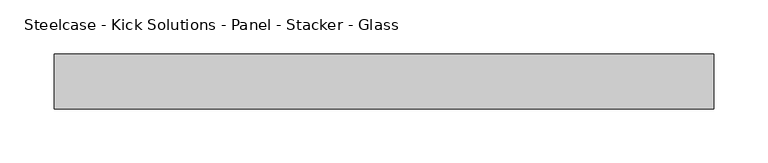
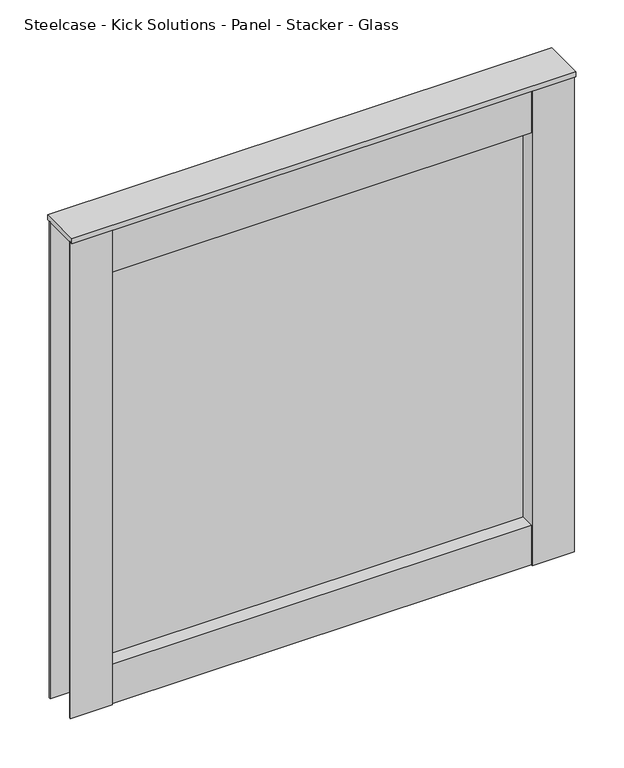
"""IFC4 building model written with IfcOpenShell, lengths in millimetres: furniture geometry, Steelcase - Kick Solutions - Panel - Stacker - Glass : 24H x 24W."""

import ifcopenshell
import ifcopenshell.guid

model = None  # the IFC model being written
_history = None  # IfcOwnerHistory: only IFC2X3 demands one
_inside = {}  # id of a spatial element -> (the spatial element, [elements in it])
_under = {}  # id of a project, library or spatial element -> (it, [spatial elements below it])
_declared = {}  # id of a project -> (the project, [libraries it declares])
_typed = {}  # id of a type object -> (the type object, [elements of that type])
_made_of = {}  # id of a material, layer set ... -> (it, [elements and type objects made of it])


def new_model(schema):
    """Start an empty IFC model of exactly this schema.

    Asked for "IFC4X3", IfcOpenShell would pick the latest addendum, in which some entities
    have other attributes; the version numbers below select the first issue.
    IFC2X3 requires an IfcOwnerHistory on every rooted entity: one is made here for all.
    """
    global model, _history
    if schema == "IFC4X3":
        model = ifcopenshell.file(schema_version=(4, 3, 0, 0))
    else:
        model = ifcopenshell.file(schema=schema)
    _inside.clear()
    _under.clear()
    _declared.clear()
    _typed.clear()
    _made_of.clear()
    _history = None
    if model.schema == "IFC2X3":
        org = make("IfcOrganization", Name="unknown")
        user = make(
            "IfcPersonAndOrganization",
            ThePerson=make("IfcPerson", FamilyName="unknown"),
            TheOrganization=org,
        )
        app = make(
            "IfcApplication",
            ApplicationDeveloper=org,
            Version="unknown",
            ApplicationFullName="unknown",
            ApplicationIdentifier="unknown",
        )
        _history = make(
            "IfcOwnerHistory",
            OwningUser=user,
            OwningApplication=app,
            ChangeAction="ADDED",
            CreationDate=0,
        )
    return model


def make(cls, **values):
    """One entity of the class cls with the attributes given. An attribute that is None is left unset."""
    return model.create_entity(
        cls, **{name: value for name, value in values.items() if value is not None}
    )


def rooted(cls, **values):
    """An entity with a GlobalId (a new one), such as an element, a storey or a relation."""
    return make(cls, GlobalId=ifcopenshell.guid.new(), OwnerHistory=_history, **values)


def si_unit(unit_type, name, prefix=None):
    """IfcSIUnit, for example si_unit("LENGTHUNIT", "METRE", prefix="MILLI")."""
    return make("IfcSIUnit", UnitType=unit_type, Prefix=prefix, Name=name)


def assignment(units):
    """IfcUnitAssignment: the units of a project."""
    return None if units is None else make("IfcUnitAssignment", Units=units)


def point(xyz):
    """IfcCartesianPoint."""
    return None if xyz is None else make("IfcCartesianPoint", Coordinates=xyz)


def direction(xyz):
    """IfcDirection."""
    return None if xyz is None else make("IfcDirection", DirectionRatios=xyz)


def frame(location, z_axis=None, x_axis=None):
    """IfcAxis2Placement3D, a coordinate frame: its origin and axes. An axis left out is left unset."""
    return make(
        "IfcAxis2Placement3D",
        Location=point(location),
        Axis=direction(z_axis),
        RefDirection=direction(x_axis),
    )


def origin():
    """The frame at (0, 0, 0) with its axes left unset."""
    return frame((0.0, 0.0, 0.0))


def place(relative_to, where):
    """IfcLocalPlacement: puts the frame where relative to a parent placement (None: the world)."""
    return make(
        "IfcLocalPlacement", PlacementRelTo=relative_to, RelativePlacement=where
    )


def context(
    kind, dimensions, precision=None, world=None, true_north=None, identifier=None
):
    """IfcGeometricRepresentationContext, for example the 3D "Model" context."""
    return make(
        "IfcGeometricRepresentationContext",
        ContextIdentifier=identifier,
        ContextType=kind,
        CoordinateSpaceDimension=dimensions,
        Precision=precision,
        WorldCoordinateSystem=world,
        TrueNorth=true_north,
    )


def project(units=None, contexts=None):
    """IfcProject with its units and contexts."""
    return rooted(
        "IfcProject",
        Name="project",
        RepresentationContexts=contexts,
        UnitsInContext=assignment(units),
    )


def spatial(cls, under=None, at=None, **own):
    """A site, building, storey or space (cls), placed at a placement, below another one or the project."""
    s = rooted(cls, ObjectPlacement=at, **own)
    if under is not None:
        _under.setdefault(under.id(), (under, []))[1].append(s)
    return s


def polyline(points):
    """IfcPolyline through the points."""
    return make("IfcPolyline", Points=[point(p) for p in points])


def outline(outer, holes=None, kind="AREA"):
    """IfcArbitraryClosedProfileDef: a profile drawn as a closed curve; with holes, ...WithVoids."""
    if holes is None:
        return make("IfcArbitraryClosedProfileDef", ProfileType=kind, OuterCurve=outer)
    return make(
        "IfcArbitraryProfileDefWithVoids",
        ProfileType=kind,
        OuterCurve=outer,
        InnerCurves=holes,
    )


def extrude(swept, where, along, depth):
    """IfcExtrudedAreaSolid: the profile swept, set in the frame where, extruded along a direction by depth."""
    return make(
        "IfcExtrudedAreaSolid",
        SweptArea=swept,
        Position=where,
        ExtrudedDirection=direction(along),
        Depth=depth,
    )


def shape(context_of_items, identifier, shape_type, items):
    """IfcShapeRepresentation: the items that make up one representation, for example the "Body"."""
    return make(
        "IfcShapeRepresentation",
        ContextOfItems=context_of_items,
        RepresentationIdentifier=identifier,
        RepresentationType=shape_type,
        Items=items,
    )


def source(mapping_origin, context_of_items, identifier, shape_type, items):
    """IfcRepresentationMap: a shape defined once, which mapped items show again and again."""
    return make(
        "IfcRepresentationMap",
        MappingOrigin=mapping_origin,
        MappedRepresentation=shape(context_of_items, identifier, shape_type, items),
    )


def transform(
    local_origin,
    x_axis=None,
    y_axis=None,
    z_axis=None,
    scale=None,
    scale2=None,
    scale3=None,
    uniform=True,
):
    """IfcCartesianTransformationOperator3D, or its non-uniform kind. x_axis, y_axis, z_axis: its Axis1, 2, 3."""
    if uniform:
        return make(
            "IfcCartesianTransformationOperator3D",
            Axis1=direction(x_axis),
            Axis2=direction(y_axis),
            LocalOrigin=point(local_origin),
            Scale=scale,
            Axis3=direction(z_axis),
        )
    return make(
        "IfcCartesianTransformationOperator3DnonUniform",
        Axis1=direction(x_axis),
        Axis2=direction(y_axis),
        LocalOrigin=point(local_origin),
        Scale=scale,
        Axis3=direction(z_axis),
        Scale2=scale2,
        Scale3=scale3,
    )


def mapped(mapping_source, mapping_target):
    """IfcMappedItem: shows the shape of a source again, moved by a transform."""
    return make(
        "IfcMappedItem", MappingSource=mapping_source, MappingTarget=mapping_target
    )


def made_of(thing, what):
    """Note that an element or type object is made of a material, layer set ...; save() writes the relation."""
    if what is not None:
        _made_of.setdefault(what.id(), (what, []))[1].append(thing)
    return thing


def element(
    cls,
    number,
    at=None,
    inside=None,
    cuts=None,
    type_object=None,
    material=None,
    context=None,
    identifier="Body",
    shape_type=None,
    held_by="IfcProductDefinitionShape",
    body=None,
    shapes=None,
    **own,
):
    """One element of the class cls, such as IfcWall. Its Tag is "e" and its number.

    at: its placement. inside: the storey or other place that contains it. cuts: it is an
    opening in that element (IfcRelVoidsElement). A single representation is given by context,
    identifier, shape_type and body (its items); several are given by shapes. held_by: the class
    of the entity that holds the representations. save() writes the other relations.
    """
    e = rooted(cls, Tag="e%d" % number, ObjectPlacement=at, **own)
    if body is not None:
        shapes = [shape(context, identifier, shape_type, body)]
    if shapes is not None:
        e.Representation = make(held_by, Representations=shapes)
    if inside is not None:
        _inside.setdefault(inside.id(), (inside, []))[1].append(e)
    if cuts is not None:
        rooted(
            "IfcRelVoidsElement", RelatingBuildingElement=cuts, RelatedOpeningElement=e
        )
    if type_object is not None:
        _typed.setdefault(type_object.id(), (type_object, []))[1].append(e)
    return made_of(e, material)


def aggregate(whole, parts):
    """IfcRelAggregates: a whole, such as a stair, and the parts it consists of."""
    return rooted("IfcRelAggregates", RelatingObject=whole, RelatedObjects=parts)


def save(model, path):
    """Write the relations noted so far, then the file.

    IfcRelAggregates (storeys below a building ...), IfcRelContainedInSpatialStructure (elements
    in a storey), IfcRelDefinesByType, IfcRelAssociatesMaterial and IfcRelDeclares: one each for
    every whole, place, type object, material and project.
    """
    for whole, parts in _under.values():
        aggregate(whole, parts)
    for where, things in _inside.values():
        rooted(
            "IfcRelContainedInSpatialStructure",
            RelatedElements=things,
            RelatingStructure=where,
        )
    for kind, things in _typed.values():
        rooted("IfcRelDefinesByType", RelatedObjects=things, RelatingType=kind)
    for what, things in _made_of.values():
        rooted("IfcRelAssociatesMaterial", RelatedObjects=things, RelatingMaterial=what)
    for by, libraries in _declared.values():
        rooted("IfcRelDeclares", RelatingContext=by, RelatedDefinitions=libraries)
    model.write(path)


def steelcase_kick_solutions_panel_stacker_glass_a54ba889(model_context):
    return source(origin(), model_context, "Body", "SweptSolid", [
        extrude(outline(polyline([(558.8006661, -5.08), (558.8006661, -45.7200015), (50.8006646, -45.7200015), (50.8006646, -5.08), (558.8006661, -5.08)])), frame((0.0, 0.0, 1066.8), z_axis=(0.0, 0.0, 1.0), x_axis=(1.0, 0.0, 0.0)), (0.0, 0.0, 1.0), 50.6830951),
        extrude(outline(polyline([(558.8006661, -5.08), (558.8006661, -45.7200015), (50.8006646, -45.7200015), (50.8006646, -5.08), (558.8006661, -5.08)])), frame((0.0, 0.0, 1619.25), z_axis=(0.0, 0.0, 1.0), x_axis=(1.0, 0.0, 0.0)), (0.0, 0.0, 1.0), 57.15),
        extrude(outline(polyline([(50.8006646, -3.1743148), (50.8006646, -47.6243142), (0.0, -47.6243142), (0.0, -45.7200015), (47.7526646, -45.7200015), (47.7526646, -5.08), (0.0, -5.08), (0.0, -3.1743148), (50.8006646, -3.1743148)])), frame((0.0, 0.0, 1066.8), z_axis=(0.0, 0.0, 1.0), x_axis=(1.0, 0.0, 0.0)), (0.0, 0.0, 1.0), 609.6),
        extrude(outline(polyline([(558.8006661, -3.1743148), (609.6, -3.1743148), (609.6, -5.08), (561.8486661, -5.08), (561.8486661, -45.7200015), (609.6, -45.7200015), (609.6, -47.6243142), (558.8006661, -47.6243142), (558.8006661, -3.1743148)])), frame((0.0, 0.0, 1066.8), z_axis=(0.0, 0.0, 1.0), x_axis=(1.0, 0.0, 0.0)), (0.0, 0.0, 1.0), 609.6),
        extrude(outline(polyline([(558.8006661, -28.422537), (50.8006646, -28.422537), (50.8006646, -25.4), (558.8006661, -25.4), (558.8006661, -28.422537)])), frame((0.0, 0.0, 1117.4830951), z_axis=(0.0, 0.0, 1.0), x_axis=(1.0, 0.0, 0.0)), (0.0, 0.0, 1.0), 501.7669049),
        extrude(outline(polyline([(609.6, 0.0), (609.6, -50.8000015), (0.0, -50.8000015), (0.0, 0.0), (609.6, 0.0)])), frame((0.0, 0.0, 1676.4), z_axis=(0.0, 0.0, 1.0), x_axis=(1.0, 0.0, 0.0)), (0.0, 0.0, 1.0), 6.35),
    ])


if __name__ == "__main__":
    model = new_model("IFC4")
    model_context = context("Model", 3, world=origin())
    ifc_project = project(units=[si_unit("LENGTHUNIT", "METRE", prefix="MILLI")], contexts=[model_context])
    site = spatial("IfcSite", under=ifc_project)
    building = spatial("IfcBuilding", under=site)
    placement = place(None, origin())
    steelcase_kick_solutions_panel_stacker_glass_shape = steelcase_kick_solutions_panel_stacker_glass_a54ba889(model_context)
    element("IfcFurniture", 1, ObjectType="Steelcase - Kick Solutions - Panel - Stacker - Glass : 24H x 24W", at=placement, inside=building, context=model_context, shape_type="MappedRepresentation", body=[
        mapped(steelcase_kick_solutions_panel_stacker_glass_shape, transform((0.0, 0.0, 0.0), x_axis=(1.0, 0.0, 0.0), y_axis=(0.0, 1.0, 0.0), z_axis=(0.0, 0.0, 1.0))),
    ])
    save(model, "model.ifc")
